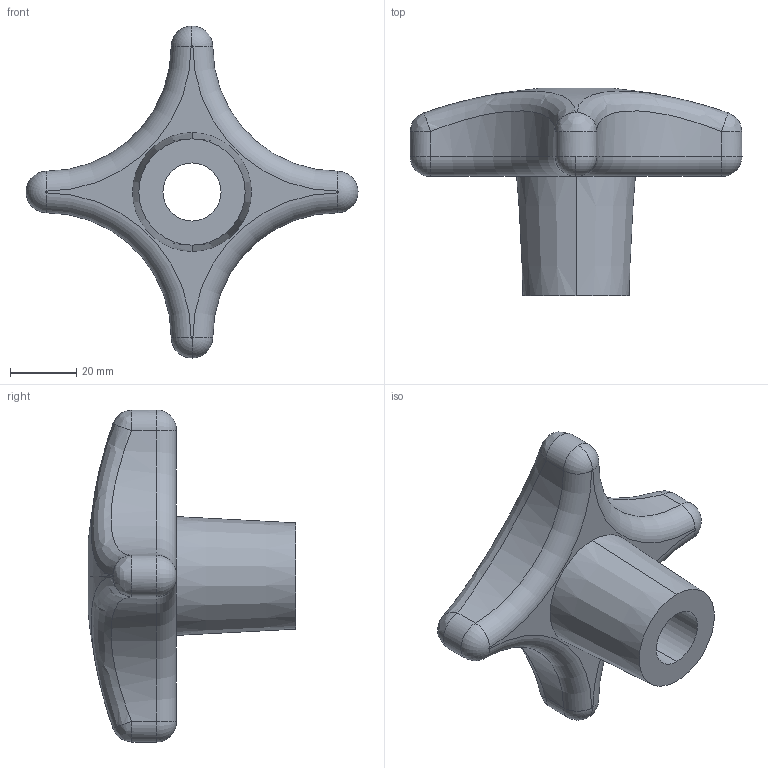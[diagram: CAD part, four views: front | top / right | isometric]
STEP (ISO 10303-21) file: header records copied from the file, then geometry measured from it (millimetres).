
FILE_DESCRIPTION (( 'STEP AP203' ), '1' );
FILE_NAME ('7000.W390.step', '2010-01-29T17:38:16', ( 'Wixroyd' ), ( 'Wixroyd' ), 'SwSTEP 2.0', 'SolidWorks 2009', '' );
FILE_SCHEMA (( 'CONFIG_CONTROL_DESIGN' ));
Length unit declared in the file: millimetre
Products named in the file (1): 7000.W390
Bounding box: 100 x 62.6 x 100 mm (x, y, z)
Volume: 94840.2 mm3; surface area: 19367.5 mm2
Topology: 1 solids, 1 shells, 38 faces, 88 edges, 53 vertices
Faces by surface type: cylinder 13, torus 10, bspline 8, plane 3, cone 2, sphere 2
Entity records: 7293 total; most frequent: CARTESIAN_POINT 6364, DIRECTION 185, ORIENTED_EDGE 176, EDGE_CURVE 88, AXIS2_PLACEMENT_3D 85, CIRCLE 54, VERTEX_POINT 53, EDGE_LOOP 41
